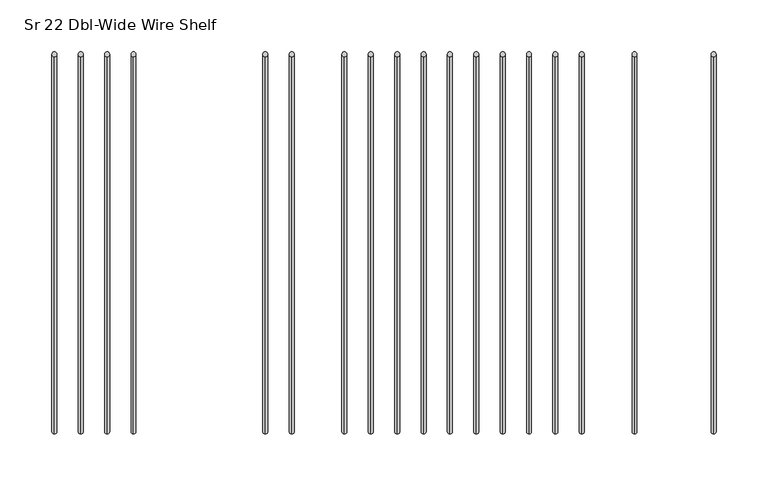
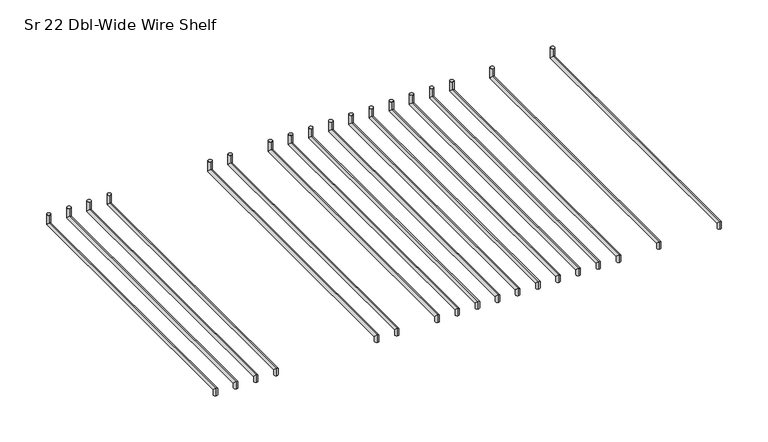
"""IFC4 building model written with IfcOpenShell, lengths in millimetres: furniture geometry, HermanMiller_Carts_CT521_CartShelf : Sr 22 Dbl-Wide Wire Shelf."""

from ifc_helpers import new_model, si_unit, frame, origin, place, context, project, spatial, circle_curve, ellipse_curve, source, transform, mapped, element, save
from ifc_brep_helpers import plane_surface, cylinder_surface, advanced_brep


def sr_22_dbl_wide_wire_shelf_4a8b3b1c(model_context):
    return source(origin(), model_context, "Body", "AdvancedBrep", [
        advanced_brep(
        [(358.5223083, -206.38135, 1538.8971), (358.5223083, -211.14385, 1538.8971), (358.5223083, -206.38135, 1543.6596), (358.5223083, -211.14385, 1548.4221), (358.5223083, 157.2983379, 1543.6596), (358.5223083, 152.5358379, 1548.4221), (358.5223083, 157.2983379, 1558.9377), (358.5223083, 152.5358379, 1558.9377)],
        [
            (0, 1, circle_curve(frame((358.5223083, -208.7626, 1538.8971), z_axis=(0.0, 0.0, -1.0), x_axis=(0.0, -1.0, 0.0)), 2.38125)),
            (1, 0, circle_curve(frame((358.5223083, -208.7626, 1538.8971), z_axis=(0.0, 0.0, -1.0), x_axis=(0.0, -1.0, 0.0)), 2.38125)),
            (0, 2),
            (2, 3, ellipse_curve(frame((358.5223083, -208.7626, 1546.04085), z_axis=(0.0, -0.7071067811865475, -0.7071067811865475), x_axis=(0.0, 0.7071067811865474, -0.7071067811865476)), 3.367596, 2.38125)),
            (3, 1),
            (3, 2, ellipse_curve(frame((358.5223083, -208.7626, 1546.04085), z_axis=(0.0, -0.7071067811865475, -0.7071067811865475), x_axis=(0.0, 0.7071067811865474, -0.7071067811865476)), 3.367596, 2.38125)),
            (2, 4),
            (4, 5, ellipse_curve(frame((358.5223083, 154.9170879, 1546.04085), z_axis=(0.0, -0.7071067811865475, -0.7071067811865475), x_axis=(0.0, -0.7071067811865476, 0.7071067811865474)), 3.367596, 2.38125)),
            (5, 3),
            (5, 4, ellipse_curve(frame((358.5223083, 154.9170879, 1546.04085), z_axis=(0.0, -0.7071067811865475, -0.7071067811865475), x_axis=(0.0, -0.7071067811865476, 0.7071067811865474)), 3.367596, 2.38125)),
            (6, 7, circle_curve(frame((358.5223083, 154.9170879, 1558.9377), z_axis=(0.0, 0.0, 1.0), x_axis=(0.0, -1.0, 0.0)), 2.38125)),
            (7, 6, circle_curve(frame((358.5223083, 154.9170879, 1558.9377), z_axis=(0.0, 0.0, 1.0), x_axis=(0.0, -1.0, 0.0)), 2.38125)),
            (4, 6),
            (7, 5),
        ],
        [
            plane_surface(frame((358.5223083, -208.7626, 1538.8971), z_axis=(0.0, 0.0, -1.0), x_axis=(1.0, 0.0, 0.0))),
            cylinder_surface(frame((358.5223083, -208.7626, 1538.8971), z_axis=(0.0, 0.0, -1.0), x_axis=(0.0, -1.0, 0.0)), 2.38125),
            cylinder_surface(frame((358.5223083, -208.7626, 1546.04085), z_axis=(0.0, -1.0, 0.0), x_axis=(0.0, 0.0, 1.0)), 2.38125),
            plane_surface(frame((358.5223083, 154.9170879, 1558.9377), z_axis=(0.0, 0.0, 1.0), x_axis=(1.0, 0.0, 0.0))),
            cylinder_surface(frame((358.5223083, 154.9170879, 1546.04085), z_axis=(0.0, 0.0, -1.0), x_axis=(0.0, -1.0, 0.0)), 2.38125),
        ],
        [
            (0, [[1, 2]]),
            (1, [[-1, 3, 4, 5]]),
            (1, [[-2, -5, 6, -3]]),
            (2, [[-4, 7, 8, 9]]),
            (2, [[-6, -9, 10, -7]]),
            (3, [[11, 12]]),
            (4, [[-8, 13, -12, 14]]),
            (4, [[-10, -14, -11, -13]]),
        ],
    ),
        advanced_brep(
        [(282.3223083, -206.38135, 1538.8971), (282.3223083, -211.14385, 1538.8971), (282.3223083, -206.38135, 1543.6596), (282.3223083, -211.14385, 1548.4221), (282.3223083, 157.2983379, 1543.6596), (282.3223083, 152.5358379, 1548.4221), (282.3223083, 157.2983379, 1558.9377), (282.3223083, 152.5358379, 1558.9377)],
        [
            (0, 1, circle_curve(frame((282.3223083, -208.7626, 1538.8971), z_axis=(0.0, 0.0, -1.0), x_axis=(0.0, -1.0, 0.0)), 2.38125)),
            (1, 0, circle_curve(frame((282.3223083, -208.7626, 1538.8971), z_axis=(0.0, 0.0, -1.0), x_axis=(0.0, -1.0, 0.0)), 2.38125)),
            (0, 2),
            (2, 3, ellipse_curve(frame((282.3223083, -208.7626, 1546.04085), z_axis=(0.0, -0.7071067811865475, -0.7071067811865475), x_axis=(0.0, 0.7071067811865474, -0.7071067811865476)), 3.367596, 2.38125)),
            (3, 1),
            (3, 2, ellipse_curve(frame((282.3223083, -208.7626, 1546.04085), z_axis=(0.0, -0.7071067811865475, -0.7071067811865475), x_axis=(0.0, 0.7071067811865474, -0.7071067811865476)), 3.367596, 2.38125)),
            (2, 4),
            (4, 5, ellipse_curve(frame((282.3223083, 154.9170879, 1546.04085), z_axis=(0.0, -0.7071067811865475, -0.7071067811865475), x_axis=(0.0, -0.7071067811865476, 0.7071067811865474)), 3.367596, 2.38125)),
            (5, 3),
            (5, 4, ellipse_curve(frame((282.3223083, 154.9170879, 1546.04085), z_axis=(0.0, -0.7071067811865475, -0.7071067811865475), x_axis=(0.0, -0.7071067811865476, 0.7071067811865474)), 3.367596, 2.38125)),
            (6, 7, circle_curve(frame((282.3223083, 154.9170879, 1558.9377), z_axis=(0.0, 0.0, 1.0), x_axis=(0.0, -1.0, 0.0)), 2.38125)),
            (7, 6, circle_curve(frame((282.3223083, 154.9170879, 1558.9377), z_axis=(0.0, 0.0, 1.0), x_axis=(0.0, -1.0, 0.0)), 2.38125)),
            (4, 6),
            (7, 5),
        ],
        [
            plane_surface(frame((282.3223083, -208.7626, 1538.8971), z_axis=(0.0, 0.0, -1.0), x_axis=(1.0, 0.0, 0.0))),
            cylinder_surface(frame((282.3223083, -208.7626, 1538.8971), z_axis=(0.0, 0.0, -1.0), x_axis=(0.0, -1.0, 0.0)), 2.38125),
            cylinder_surface(frame((282.3223083, -208.7626, 1546.04085), z_axis=(0.0, -1.0, 0.0), x_axis=(0.0, 0.0, 1.0)), 2.38125),
            plane_surface(frame((282.3223083, 154.9170879, 1558.9377), z_axis=(0.0, 0.0, 1.0), x_axis=(1.0, 0.0, 0.0))),
            cylinder_surface(frame((282.3223083, 154.9170879, 1546.04085), z_axis=(0.0, 0.0, -1.0), x_axis=(0.0, -1.0, 0.0)), 2.38125),
        ],
        [
            (0, [[1, 2]]),
            (1, [[-1, 3, 4, 5]]),
            (1, [[-2, -5, 6, -3]]),
            (2, [[-4, 7, 8, 9]]),
            (2, [[-6, -9, 10, -7]]),
            (3, [[11, 12]]),
            (4, [[-8, 13, -12, 14]]),
            (4, [[-10, -14, -11, -13]]),
        ],
    ),
        advanced_brep(
        [(28.3223083, -206.38135, 1538.8971), (28.3223083, -211.14385, 1538.8971), (28.3223083, -206.38135, 1543.6596), (28.3223083, -211.14385, 1548.4221), (28.3223083, 157.2983379, 1543.6596), (28.3223083, 152.5358379, 1548.4221), (28.3223083, 157.2983379, 1558.9377), (28.3223083, 152.5358379, 1558.9377)],
        [
            (0, 1, circle_curve(frame((28.3223083, -208.7626, 1538.8971), z_axis=(0.0, 0.0, -1.0), x_axis=(0.0, -1.0, 0.0)), 2.38125)),
            (1, 0, circle_curve(frame((28.3223083, -208.7626, 1538.8971), z_axis=(0.0, 0.0, -1.0), x_axis=(0.0, -1.0, 0.0)), 2.38125)),
            (0, 2),
            (2, 3, ellipse_curve(frame((28.3223083, -208.7626, 1546.04085), z_axis=(0.0, -0.7071067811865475, -0.7071067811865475), x_axis=(0.0, 0.7071067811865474, -0.7071067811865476)), 3.367596, 2.38125)),
            (3, 1),
            (3, 2, ellipse_curve(frame((28.3223083, -208.7626, 1546.04085), z_axis=(0.0, -0.7071067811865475, -0.7071067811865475), x_axis=(0.0, 0.7071067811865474, -0.7071067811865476)), 3.367596, 2.38125)),
            (2, 4),
            (4, 5, ellipse_curve(frame((28.3223083, 154.9170879, 1546.04085), z_axis=(0.0, -0.7071067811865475, -0.7071067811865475), x_axis=(0.0, -0.7071067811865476, 0.7071067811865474)), 3.367596, 2.38125)),
            (5, 3),
            (5, 4, ellipse_curve(frame((28.3223083, 154.9170879, 1546.04085), z_axis=(0.0, -0.7071067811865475, -0.7071067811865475), x_axis=(0.0, -0.7071067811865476, 0.7071067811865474)), 3.367596, 2.38125)),
            (6, 7, circle_curve(frame((28.3223083, 154.9170879, 1558.9377), z_axis=(0.0, 0.0, 1.0), x_axis=(0.0, -1.0, 0.0)), 2.38125)),
            (7, 6, circle_curve(frame((28.3223083, 154.9170879, 1558.9377), z_axis=(0.0, 0.0, 1.0), x_axis=(0.0, -1.0, 0.0)), 2.38125)),
            (4, 6),
            (7, 5),
        ],
        [
            plane_surface(frame((28.3223083, -208.7626, 1538.8971), z_axis=(0.0, 0.0, -1.0), x_axis=(1.0, 0.0, 0.0))),
            cylinder_surface(frame((28.3223083, -208.7626, 1538.8971), z_axis=(0.0, 0.0, -1.0), x_axis=(0.0, -1.0, 0.0)), 2.38125),
            cylinder_surface(frame((28.3223083, -208.7626, 1546.04085), z_axis=(0.0, -1.0, 0.0), x_axis=(0.0, 0.0, 1.0)), 2.38125),
            plane_surface(frame((28.3223083, 154.9170879, 1558.9377), z_axis=(0.0, 0.0, 1.0), x_axis=(1.0, 0.0, 0.0))),
            cylinder_surface(frame((28.3223083, 154.9170879, 1546.04085), z_axis=(0.0, 0.0, -1.0), x_axis=(0.0, -1.0, 0.0)), 2.38125),
        ],
        [
            (0, [[1, 2]]),
            (1, [[-1, 3, 4, 5]]),
            (1, [[-2, -5, 6, -3]]),
            (2, [[-4, 7, 8, 9]]),
            (2, [[-6, -9, 10, -7]]),
            (3, [[11, 12]]),
            (4, [[-8, 13, -12, 14]]),
            (4, [[-10, -14, -11, -13]]),
        ],
    ),
        advanced_brep(
        [(-47.8776917, -206.38135, 1538.8971), (-47.8776917, -211.14385, 1538.8971), (-47.8776917, -206.38135, 1543.6596), (-47.8776917, -211.14385, 1548.4221), (-47.8776917, 157.2983379, 1543.6596), (-47.8776917, 152.5358379, 1548.4221), (-47.8776917, 157.2983379, 1558.9377), (-47.8776917, 152.5358379, 1558.9377)],
        [
            (0, 1, circle_curve(frame((-47.8776917, -208.7626, 1538.8971), z_axis=(0.0, 0.0, -1.0), x_axis=(0.0, -1.0, 0.0)), 2.38125)),
            (1, 0, circle_curve(frame((-47.8776917, -208.7626, 1538.8971), z_axis=(0.0, 0.0, -1.0), x_axis=(0.0, -1.0, 0.0)), 2.38125)),
            (0, 2),
            (2, 3, ellipse_curve(frame((-47.8776917, -208.7626, 1546.04085), z_axis=(0.0, -0.7071067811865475, -0.7071067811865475), x_axis=(0.0, 0.7071067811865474, -0.7071067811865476)), 3.367596, 2.38125)),
            (3, 1),
            (3, 2, ellipse_curve(frame((-47.8776917, -208.7626, 1546.04085), z_axis=(0.0, -0.7071067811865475, -0.7071067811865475), x_axis=(0.0, 0.7071067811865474, -0.7071067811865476)), 3.367596, 2.38125)),
            (2, 4),
            (4, 5, ellipse_curve(frame((-47.8776917, 154.9170879, 1546.04085), z_axis=(0.0, -0.7071067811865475, -0.7071067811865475), x_axis=(0.0, -0.7071067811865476, 0.7071067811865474)), 3.367596, 2.38125)),
            (5, 3),
            (5, 4, ellipse_curve(frame((-47.8776917, 154.9170879, 1546.04085), z_axis=(0.0, -0.7071067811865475, -0.7071067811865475), x_axis=(0.0, -0.7071067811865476, 0.7071067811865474)), 3.367596, 2.38125)),
            (6, 7, circle_curve(frame((-47.8776917, 154.9170879, 1558.9377), z_axis=(0.0, 0.0, 1.0), x_axis=(0.0, -1.0, 0.0)), 2.38125)),
            (7, 6, circle_curve(frame((-47.8776917, 154.9170879, 1558.9377), z_axis=(0.0, 0.0, 1.0), x_axis=(0.0, -1.0, 0.0)), 2.38125)),
            (4, 6),
            (7, 5),
        ],
        [
            plane_surface(frame((-47.8776917, -208.7626, 1538.8971), z_axis=(0.0, 0.0, -1.0), x_axis=(1.0, 0.0, 0.0))),
            cylinder_surface(frame((-47.8776917, -208.7626, 1538.8971), z_axis=(0.0, 0.0, -1.0), x_axis=(0.0, -1.0, 0.0)), 2.38125),
            cylinder_surface(frame((-47.8776917, -208.7626, 1546.04085), z_axis=(0.0, -1.0, 0.0), x_axis=(0.0, 0.0, 1.0)), 2.38125),
            plane_surface(frame((-47.8776917, 154.9170879, 1558.9377), z_axis=(0.0, 0.0, 1.0), x_axis=(1.0, 0.0, 0.0))),
            cylinder_surface(frame((-47.8776917, 154.9170879, 1546.04085), z_axis=(0.0, 0.0, -1.0), x_axis=(0.0, -1.0, 0.0)), 2.38125),
        ],
        [
            (0, [[1, 2]]),
            (1, [[-1, 3, 4, 5]]),
            (1, [[-2, -5, 6, -3]]),
            (2, [[-4, 7, 8, 9]]),
            (2, [[-6, -9, 10, -7]]),
            (3, [[11, 12]]),
            (4, [[-8, 13, -12, 14]]),
            (4, [[-10, -14, -11, -13]]),
        ],
    ),
        advanced_brep(
        [(-73.2776917, -206.38135, 1538.8971), (-73.2776917, -211.14385, 1538.8971), (-73.2776917, -206.38135, 1543.6596), (-73.2776917, -211.14385, 1548.4221), (-73.2776917, 157.2983379, 1543.6596), (-73.2776917, 152.5358379, 1548.4221), (-73.2776917, 157.2983379, 1558.9377), (-73.2776917, 152.5358379, 1558.9377)],
        [
            (0, 1, circle_curve(frame((-73.2776917, -208.7626, 1538.8971), z_axis=(0.0, 0.0, -1.0), x_axis=(0.0, -1.0, 0.0)), 2.38125)),
            (1, 0, circle_curve(frame((-73.2776917, -208.7626, 1538.8971), z_axis=(0.0, 0.0, -1.0), x_axis=(0.0, -1.0, 0.0)), 2.38125)),
            (0, 2),
            (2, 3, ellipse_curve(frame((-73.2776917, -208.7626, 1546.04085), z_axis=(0.0, -0.7071067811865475, -0.7071067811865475), x_axis=(0.0, 0.7071067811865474, -0.7071067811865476)), 3.367596, 2.38125)),
            (3, 1),
            (3, 2, ellipse_curve(frame((-73.2776917, -208.7626, 1546.04085), z_axis=(0.0, -0.7071067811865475, -0.7071067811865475), x_axis=(0.0, 0.7071067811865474, -0.7071067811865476)), 3.367596, 2.38125)),
            (2, 4),
            (4, 5, ellipse_curve(frame((-73.2776917, 154.9170879, 1546.04085), z_axis=(0.0, -0.7071067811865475, -0.7071067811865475), x_axis=(0.0, -0.7071067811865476, 0.7071067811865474)), 3.367596, 2.38125)),
            (5, 3),
            (5, 4, ellipse_curve(frame((-73.2776917, 154.9170879, 1546.04085), z_axis=(0.0, -0.7071067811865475, -0.7071067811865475), x_axis=(0.0, -0.7071067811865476, 0.7071067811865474)), 3.367596, 2.38125)),
            (6, 7, circle_curve(frame((-73.2776917, 154.9170879, 1558.9377), z_axis=(0.0, 0.0, 1.0), x_axis=(0.0, -1.0, 0.0)), 2.38125)),
            (7, 6, circle_curve(frame((-73.2776917, 154.9170879, 1558.9377), z_axis=(0.0, 0.0, 1.0), x_axis=(0.0, -1.0, 0.0)), 2.38125)),
            (4, 6),
            (7, 5),
        ],
        [
            plane_surface(frame((-73.2776917, -208.7626, 1538.8971), z_axis=(0.0, 0.0, -1.0), x_axis=(1.0, 0.0, 0.0))),
            cylinder_surface(frame((-73.2776917, -208.7626, 1538.8971), z_axis=(0.0, 0.0, -1.0), x_axis=(0.0, -1.0, 0.0)), 2.38125),
            cylinder_surface(frame((-73.2776917, -208.7626, 1546.04085), z_axis=(0.0, -1.0, 0.0), x_axis=(0.0, 0.0, 1.0)), 2.38125),
            plane_surface(frame((-73.2776917, 154.9170879, 1558.9377), z_axis=(0.0, 0.0, 1.0), x_axis=(1.0, 0.0, 0.0))),
            cylinder_surface(frame((-73.2776917, 154.9170879, 1546.04085), z_axis=(0.0, 0.0, -1.0), x_axis=(0.0, -1.0, 0.0)), 2.38125),
        ],
        [
            (0, [[1, 2]]),
            (1, [[-1, 3, 4, 5]]),
            (1, [[-2, -5, 6, -3]]),
            (2, [[-4, 7, 8, 9]]),
            (2, [[-6, -9, 10, -7]]),
            (3, [[11, 12]]),
            (4, [[-8, 13, -12, 14]]),
            (4, [[-10, -14, -11, -13]]),
        ],
    ),
        advanced_brep(
        [(2.9223083, -206.38135, 1538.8971), (2.9223083, -211.14385, 1538.8971), (2.9223083, -206.38135, 1543.6596), (2.9223083, -211.14385, 1548.4221), (2.9223083, 157.2983379, 1543.6596), (2.9223083, 152.5358379, 1548.4221), (2.9223083, 157.2983379, 1558.9377), (2.9223083, 152.5358379, 1558.9377)],
        [
            (0, 1, circle_curve(frame((2.9223083, -208.7626, 1538.8971), z_axis=(0.0, 0.0, -1.0), x_axis=(0.0, -1.0, 0.0)), 2.38125)),
            (1, 0, circle_curve(frame((2.9223083, -208.7626, 1538.8971), z_axis=(0.0, 0.0, -1.0), x_axis=(0.0, -1.0, 0.0)), 2.38125)),
            (0, 2),
            (2, 3, ellipse_curve(frame((2.9223083, -208.7626, 1546.04085), z_axis=(0.0, -0.7071067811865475, -0.7071067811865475), x_axis=(0.0, 0.7071067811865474, -0.7071067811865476)), 3.367596, 2.38125)),
            (3, 1),
            (3, 2, ellipse_curve(frame((2.9223083, -208.7626, 1546.04085), z_axis=(0.0, -0.7071067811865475, -0.7071067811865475), x_axis=(0.0, 0.7071067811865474, -0.7071067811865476)), 3.367596, 2.38125)),
            (2, 4),
            (4, 5, ellipse_curve(frame((2.9223083, 154.9170879, 1546.04085), z_axis=(0.0, -0.7071067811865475, -0.7071067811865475), x_axis=(0.0, -0.7071067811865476, 0.7071067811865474)), 3.367596, 2.38125)),
            (5, 3),
            (5, 4, ellipse_curve(frame((2.9223083, 154.9170879, 1546.04085), z_axis=(0.0, -0.7071067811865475, -0.7071067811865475), x_axis=(0.0, -0.7071067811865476, 0.7071067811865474)), 3.367596, 2.38125)),
            (6, 7, circle_curve(frame((2.9223083, 154.9170879, 1558.9377), z_axis=(0.0, 0.0, 1.0), x_axis=(0.0, -1.0, 0.0)), 2.38125)),
            (7, 6, circle_curve(frame((2.9223083, 154.9170879, 1558.9377), z_axis=(0.0, 0.0, 1.0), x_axis=(0.0, -1.0, 0.0)), 2.38125)),
            (4, 6),
            (7, 5),
        ],
        [
            plane_surface(frame((2.9223083, -208.7626, 1538.8971), z_axis=(0.0, 0.0, -1.0), x_axis=(1.0, 0.0, 0.0))),
            cylinder_surface(frame((2.9223083, -208.7626, 1538.8971), z_axis=(0.0, 0.0, -1.0), x_axis=(0.0, -1.0, 0.0)), 2.38125),
            cylinder_surface(frame((2.9223083, -208.7626, 1546.04085), z_axis=(0.0, -1.0, 0.0), x_axis=(0.0, 0.0, 1.0)), 2.38125),
            plane_surface(frame((2.9223083, 154.9170879, 1558.9377), z_axis=(0.0, 0.0, 1.0), x_axis=(1.0, 0.0, 0.0))),
            cylinder_surface(frame((2.9223083, 154.9170879, 1546.04085), z_axis=(0.0, 0.0, -1.0), x_axis=(0.0, -1.0, 0.0)), 2.38125),
        ],
        [
            (0, [[1, 2]]),
            (1, [[-1, 3, 4, 5]]),
            (1, [[-2, -5, 6, -3]]),
            (2, [[-4, 7, 8, 9]]),
            (2, [[-6, -9, 10, -7]]),
            (3, [[11, 12]]),
            (4, [[-8, 13, -12, 14]]),
            (4, [[-10, -14, -11, -13]]),
        ],
    ),
        advanced_brep(
        [(53.7223083, -206.38135, 1538.8971), (53.7223083, -211.14385, 1538.8971), (53.7223083, -206.38135, 1543.6596), (53.7223083, -211.14385, 1548.4221), (53.7223083, 157.2983379, 1543.6596), (53.7223083, 152.5358379, 1548.4221), (53.7223083, 157.2983379, 1558.9377), (53.7223083, 152.5358379, 1558.9377)],
        [
            (0, 1, circle_curve(frame((53.7223083, -208.7626, 1538.8971), z_axis=(0.0, 0.0, -1.0), x_axis=(0.0, -1.0, 0.0)), 2.38125)),
            (1, 0, circle_curve(frame((53.7223083, -208.7626, 1538.8971), z_axis=(0.0, 0.0, -1.0), x_axis=(0.0, -1.0, 0.0)), 2.38125)),
            (0, 2),
            (2, 3, ellipse_curve(frame((53.7223083, -208.7626, 1546.04085), z_axis=(0.0, -0.7071067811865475, -0.7071067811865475), x_axis=(0.0, 0.7071067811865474, -0.7071067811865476)), 3.367596, 2.38125)),
            (3, 1),
            (3, 2, ellipse_curve(frame((53.7223083, -208.7626, 1546.04085), z_axis=(0.0, -0.7071067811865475, -0.7071067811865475), x_axis=(0.0, 0.7071067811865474, -0.7071067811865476)), 3.367596, 2.38125)),
            (2, 4),
            (4, 5, ellipse_curve(frame((53.7223083, 154.9170879, 1546.04085), z_axis=(0.0, -0.7071067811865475, -0.7071067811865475), x_axis=(0.0, -0.7071067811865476, 0.7071067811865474)), 3.367596, 2.38125)),
            (5, 3),
            (5, 4, ellipse_curve(frame((53.7223083, 154.9170879, 1546.04085), z_axis=(0.0, -0.7071067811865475, -0.7071067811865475), x_axis=(0.0, -0.7071067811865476, 0.7071067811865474)), 3.367596, 2.38125)),
            (6, 7, circle_curve(frame((53.7223083, 154.9170879, 1558.9377), z_axis=(0.0, 0.0, 1.0), x_axis=(0.0, -1.0, 0.0)), 2.38125)),
            (7, 6, circle_curve(frame((53.7223083, 154.9170879, 1558.9377), z_axis=(0.0, 0.0, 1.0), x_axis=(0.0, -1.0, 0.0)), 2.38125)),
            (4, 6),
            (7, 5),
        ],
        [
            plane_surface(frame((53.7223083, -208.7626, 1538.8971), z_axis=(0.0, 0.0, -1.0), x_axis=(1.0, 0.0, 0.0))),
            cylinder_surface(frame((53.7223083, -208.7626, 1538.8971), z_axis=(0.0, 0.0, -1.0), x_axis=(0.0, -1.0, 0.0)), 2.38125),
            cylinder_surface(frame((53.7223083, -208.7626, 1546.04085), z_axis=(0.0, -1.0, 0.0), x_axis=(0.0, 0.0, 1.0)), 2.38125),
            plane_surface(frame((53.7223083, 154.9170879, 1558.9377), z_axis=(0.0, 0.0, 1.0), x_axis=(1.0, 0.0, 0.0))),
            cylinder_surface(frame((53.7223083, 154.9170879, 1546.04085), z_axis=(0.0, 0.0, -1.0), x_axis=(0.0, -1.0, 0.0)), 2.38125),
        ],
        [
            (0, [[1, 2]]),
            (1, [[-1, 3, 4, 5]]),
            (1, [[-2, -5, 6, -3]]),
            (2, [[-4, 7, 8, 9]]),
            (2, [[-6, -9, 10, -7]]),
            (3, [[11, 12]]),
            (4, [[-8, 13, -12, 14]]),
            (4, [[-10, -14, -11, -13]]),
        ],
    ),
        advanced_brep(
        [(79.1223083, -206.38135, 1538.8971), (79.1223083, -211.14385, 1538.8971), (79.1223083, -206.38135, 1543.6596), (79.1223083, -211.14385, 1548.4221), (79.1223083, 157.2983379, 1543.6596), (79.1223083, 152.5358379, 1548.4221), (79.1223083, 157.2983379, 1558.9377), (79.1223083, 152.5358379, 1558.9377)],
        [
            (0, 1, circle_curve(frame((79.1223083, -208.7626, 1538.8971), z_axis=(0.0, 0.0, -1.0), x_axis=(0.0, -1.0, 0.0)), 2.38125)),
            (1, 0, circle_curve(frame((79.1223083, -208.7626, 1538.8971), z_axis=(0.0, 0.0, -1.0), x_axis=(0.0, -1.0, 0.0)), 2.38125)),
            (0, 2),
            (2, 3, ellipse_curve(frame((79.1223083, -208.7626, 1546.04085), z_axis=(0.0, -0.7071067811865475, -0.7071067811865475), x_axis=(0.0, 0.7071067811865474, -0.7071067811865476)), 3.367596, 2.38125)),
            (3, 1),
            (3, 2, ellipse_curve(frame((79.1223083, -208.7626, 1546.04085), z_axis=(0.0, -0.7071067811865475, -0.7071067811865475), x_axis=(0.0, 0.7071067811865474, -0.7071067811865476)), 3.367596, 2.38125)),
            (2, 4),
            (4, 5, ellipse_curve(frame((79.1223083, 154.9170879, 1546.04085), z_axis=(0.0, -0.7071067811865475, -0.7071067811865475), x_axis=(0.0, -0.7071067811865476, 0.7071067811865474)), 3.367596, 2.38125)),
            (5, 3),
            (5, 4, ellipse_curve(frame((79.1223083, 154.9170879, 1546.04085), z_axis=(0.0, -0.7071067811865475, -0.7071067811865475), x_axis=(0.0, -0.7071067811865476, 0.7071067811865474)), 3.367596, 2.38125)),
            (6, 7, circle_curve(frame((79.1223083, 154.9170879, 1558.9377), z_axis=(0.0, 0.0, 1.0), x_axis=(0.0, -1.0, 0.0)), 2.38125)),
            (7, 6, circle_curve(frame((79.1223083, 154.9170879, 1558.9377), z_axis=(0.0, 0.0, 1.0), x_axis=(0.0, -1.0, 0.0)), 2.38125)),
            (4, 6),
            (7, 5),
        ],
        [
            plane_surface(frame((79.1223083, -208.7626, 1538.8971), z_axis=(0.0, 0.0, -1.0), x_axis=(1.0, 0.0, 0.0))),
            cylinder_surface(frame((79.1223083, -208.7626, 1538.8971), z_axis=(0.0, 0.0, -1.0), x_axis=(0.0, -1.0, 0.0)), 2.38125),
            cylinder_surface(frame((79.1223083, -208.7626, 1546.04085), z_axis=(0.0, -1.0, 0.0), x_axis=(0.0, 0.0, 1.0)), 2.38125),
            plane_surface(frame((79.1223083, 154.9170879, 1558.9377), z_axis=(0.0, 0.0, 1.0), x_axis=(1.0, 0.0, 0.0))),
            cylinder_surface(frame((79.1223083, 154.9170879, 1546.04085), z_axis=(0.0, 0.0, -1.0), x_axis=(0.0, -1.0, 0.0)), 2.38125),
        ],
        [
            (0, [[1, 2]]),
            (1, [[-1, 3, 4, 5]]),
            (1, [[-2, -5, 6, -3]]),
            (2, [[-4, 7, 8, 9]]),
            (2, [[-6, -9, 10, -7]]),
            (3, [[11, 12]]),
            (4, [[-8, 13, -12, 14]]),
            (4, [[-10, -14, -11, -13]]),
        ],
    ),
        advanced_brep(
        [(104.5223083, -206.38135, 1538.8971), (104.5223083, -211.14385, 1538.8971), (104.5223083, -206.38135, 1543.6596), (104.5223083, -211.14385, 1548.4221), (104.5223083, 157.2983379, 1543.6596), (104.5223083, 152.5358379, 1548.4221), (104.5223083, 157.2983379, 1558.9377), (104.5223083, 152.5358379, 1558.9377)],
        [
            (0, 1, circle_curve(frame((104.5223083, -208.7626, 1538.8971), z_axis=(0.0, 0.0, -1.0), x_axis=(0.0, -1.0, 0.0)), 2.38125)),
            (1, 0, circle_curve(frame((104.5223083, -208.7626, 1538.8971), z_axis=(0.0, 0.0, -1.0), x_axis=(0.0, -1.0, 0.0)), 2.38125)),
            (0, 2),
            (2, 3, ellipse_curve(frame((104.5223083, -208.7626, 1546.04085), z_axis=(0.0, -0.7071067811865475, -0.7071067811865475), x_axis=(0.0, 0.7071067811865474, -0.7071067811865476)), 3.367596, 2.38125)),
            (3, 1),
            (3, 2, ellipse_curve(frame((104.5223083, -208.7626, 1546.04085), z_axis=(0.0, -0.7071067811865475, -0.7071067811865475), x_axis=(0.0, 0.7071067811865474, -0.7071067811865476)), 3.367596, 2.38125)),
            (2, 4),
            (4, 5, ellipse_curve(frame((104.5223083, 154.9170879, 1546.04085), z_axis=(0.0, -0.7071067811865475, -0.7071067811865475), x_axis=(0.0, -0.7071067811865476, 0.7071067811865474)), 3.367596, 2.38125)),
            (5, 3),
            (5, 4, ellipse_curve(frame((104.5223083, 154.9170879, 1546.04085), z_axis=(0.0, -0.7071067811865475, -0.7071067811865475), x_axis=(0.0, -0.7071067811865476, 0.7071067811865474)), 3.367596, 2.38125)),
            (6, 7, circle_curve(frame((104.5223083, 154.9170879, 1558.9377), z_axis=(0.0, 0.0, 1.0), x_axis=(0.0, -1.0, 0.0)), 2.38125)),
            (7, 6, circle_curve(frame((104.5223083, 154.9170879, 1558.9377), z_axis=(0.0, 0.0, 1.0), x_axis=(0.0, -1.0, 0.0)), 2.38125)),
            (4, 6),
            (7, 5),
        ],
        [
            plane_surface(frame((104.5223083, -208.7626, 1538.8971), z_axis=(0.0, 0.0, -1.0), x_axis=(1.0, 0.0, 0.0))),
            cylinder_surface(frame((104.5223083, -208.7626, 1538.8971), z_axis=(0.0, 0.0, -1.0), x_axis=(0.0, -1.0, 0.0)), 2.38125),
            cylinder_surface(frame((104.5223083, -208.7626, 1546.04085), z_axis=(0.0, -1.0, 0.0), x_axis=(0.0, 0.0, 1.0)), 2.38125),
            plane_surface(frame((104.5223083, 154.9170879, 1558.9377), z_axis=(0.0, 0.0, 1.0), x_axis=(1.0, 0.0, 0.0))),
            cylinder_surface(frame((104.5223083, 154.9170879, 1546.04085), z_axis=(0.0, 0.0, -1.0), x_axis=(0.0, -1.0, 0.0)), 2.38125),
        ],
        [
            (0, [[1, 2]]),
            (1, [[-1, 3, 4, 5]]),
            (1, [[-2, -5, 6, -3]]),
            (2, [[-4, 7, 8, 9]]),
            (2, [[-6, -9, 10, -7]]),
            (3, [[11, 12]]),
            (4, [[-8, 13, -12, 14]]),
            (4, [[-10, -14, -11, -13]]),
        ],
    ),
        advanced_brep(
        [(129.9223083, -206.38135, 1538.8971), (129.9223083, -211.14385, 1538.8971), (129.9223083, -206.38135, 1543.6596), (129.9223083, -211.14385, 1548.4221), (129.9223083, 157.2983379, 1543.6596), (129.9223083, 152.5358379, 1548.4221), (129.9223083, 157.2983379, 1558.9377), (129.9223083, 152.5358379, 1558.9377)],
        [
            (0, 1, circle_curve(frame((129.9223083, -208.7626, 1538.8971), z_axis=(0.0, 0.0, -1.0), x_axis=(0.0, -1.0, 0.0)), 2.38125)),
            (1, 0, circle_curve(frame((129.9223083, -208.7626, 1538.8971), z_axis=(0.0, 0.0, -1.0), x_axis=(0.0, -1.0, 0.0)), 2.38125)),
            (0, 2),
            (2, 3, ellipse_curve(frame((129.9223083, -208.7626, 1546.04085), z_axis=(0.0, -0.7071067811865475, -0.7071067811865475), x_axis=(0.0, 0.7071067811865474, -0.7071067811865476)), 3.367596, 2.38125)),
            (3, 1),
            (3, 2, ellipse_curve(frame((129.9223083, -208.7626, 1546.04085), z_axis=(0.0, -0.7071067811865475, -0.7071067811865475), x_axis=(0.0, 0.7071067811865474, -0.7071067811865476)), 3.367596, 2.38125)),
            (2, 4),
            (4, 5, ellipse_curve(frame((129.9223083, 154.9170879, 1546.04085), z_axis=(0.0, -0.7071067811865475, -0.7071067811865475), x_axis=(0.0, -0.7071067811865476, 0.7071067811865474)), 3.367596, 2.38125)),
            (5, 3),
            (5, 4, ellipse_curve(frame((129.9223083, 154.9170879, 1546.04085), z_axis=(0.0, -0.7071067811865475, -0.7071067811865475), x_axis=(0.0, -0.7071067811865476, 0.7071067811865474)), 3.367596, 2.38125)),
            (6, 7, circle_curve(frame((129.9223083, 154.9170879, 1558.9377), z_axis=(0.0, 0.0, 1.0), x_axis=(0.0, -1.0, 0.0)), 2.38125)),
            (7, 6, circle_curve(frame((129.9223083, 154.9170879, 1558.9377), z_axis=(0.0, 0.0, 1.0), x_axis=(0.0, -1.0, 0.0)), 2.38125)),
            (4, 6),
            (7, 5),
        ],
        [
            plane_surface(frame((129.9223083, -208.7626, 1538.8971), z_axis=(0.0, 0.0, -1.0), x_axis=(1.0, 0.0, 0.0))),
            cylinder_surface(frame((129.9223083, -208.7626, 1538.8971), z_axis=(0.0, 0.0, -1.0), x_axis=(0.0, -1.0, 0.0)), 2.38125),
            cylinder_surface(frame((129.9223083, -208.7626, 1546.04085), z_axis=(0.0, -1.0, 0.0), x_axis=(0.0, 0.0, 1.0)), 2.38125),
            plane_surface(frame((129.9223083, 154.9170879, 1558.9377), z_axis=(0.0, 0.0, 1.0), x_axis=(1.0, 0.0, 0.0))),
            cylinder_surface(frame((129.9223083, 154.9170879, 1546.04085), z_axis=(0.0, 0.0, -1.0), x_axis=(0.0, -1.0, 0.0)), 2.38125),
        ],
        [
            (0, [[1, 2]]),
            (1, [[-1, 3, 4, 5]]),
            (1, [[-2, -5, 6, -3]]),
            (2, [[-4, 7, 8, 9]]),
            (2, [[-6, -9, 10, -7]]),
            (3, [[11, 12]]),
            (4, [[-8, 13, -12, 14]]),
            (4, [[-10, -14, -11, -13]]),
        ],
    ),
        advanced_brep(
        [(155.3223083, -206.38135, 1538.8971), (155.3223083, -211.14385, 1538.8971), (155.3223083, -206.38135, 1543.6596), (155.3223083, -211.14385, 1548.4221), (155.3223083, 157.2983379, 1543.6596), (155.3223083, 152.5358379, 1548.4221), (155.3223083, 157.2983379, 1558.9377), (155.3223083, 152.5358379, 1558.9377)],
        [
            (0, 1, circle_curve(frame((155.3223083, -208.7626, 1538.8971), z_axis=(0.0, 0.0, -1.0), x_axis=(0.0, -1.0, 0.0)), 2.38125)),
            (1, 0, circle_curve(frame((155.3223083, -208.7626, 1538.8971), z_axis=(0.0, 0.0, -1.0), x_axis=(0.0, -1.0, 0.0)), 2.38125)),
            (0, 2),
            (2, 3, ellipse_curve(frame((155.3223083, -208.7626, 1546.04085), z_axis=(0.0, -0.7071067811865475, -0.7071067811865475), x_axis=(0.0, 0.7071067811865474, -0.7071067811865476)), 3.367596, 2.38125)),
            (3, 1),
            (3, 2, ellipse_curve(frame((155.3223083, -208.7626, 1546.04085), z_axis=(0.0, -0.7071067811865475, -0.7071067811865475), x_axis=(0.0, 0.7071067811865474, -0.7071067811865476)), 3.367596, 2.38125)),
            (2, 4),
            (4, 5, ellipse_curve(frame((155.3223083, 154.9170879, 1546.04085), z_axis=(0.0, -0.7071067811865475, -0.7071067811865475), x_axis=(0.0, -0.7071067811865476, 0.7071067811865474)), 3.367596, 2.38125)),
            (5, 3),
            (5, 4, ellipse_curve(frame((155.3223083, 154.9170879, 1546.04085), z_axis=(0.0, -0.7071067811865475, -0.7071067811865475), x_axis=(0.0, -0.7071067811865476, 0.7071067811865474)), 3.367596, 2.38125)),
            (6, 7, circle_curve(frame((155.3223083, 154.9170879, 1558.9377), z_axis=(0.0, 0.0, 1.0), x_axis=(0.0, -1.0, 0.0)), 2.38125)),
            (7, 6, circle_curve(frame((155.3223083, 154.9170879, 1558.9377), z_axis=(0.0, 0.0, 1.0), x_axis=(0.0, -1.0, 0.0)), 2.38125)),
            (4, 6),
            (7, 5),
        ],
        [
            plane_surface(frame((155.3223083, -208.7626, 1538.8971), z_axis=(0.0, 0.0, -1.0), x_axis=(1.0, 0.0, 0.0))),
            cylinder_surface(frame((155.3223083, -208.7626, 1538.8971), z_axis=(0.0, 0.0, -1.0), x_axis=(0.0, -1.0, 0.0)), 2.38125),
            cylinder_surface(frame((155.3223083, -208.7626, 1546.04085), z_axis=(0.0, -1.0, 0.0), x_axis=(0.0, 0.0, 1.0)), 2.38125),
            plane_surface(frame((155.3223083, 154.9170879, 1558.9377), z_axis=(0.0, 0.0, 1.0), x_axis=(1.0, 0.0, 0.0))),
            cylinder_surface(frame((155.3223083, 154.9170879, 1546.04085), z_axis=(0.0, 0.0, -1.0), x_axis=(0.0, -1.0, 0.0)), 2.38125),
        ],
        [
            (0, [[1, 2]]),
            (1, [[-1, 3, 4, 5]]),
            (1, [[-2, -5, 6, -3]]),
            (2, [[-4, 7, 8, 9]]),
            (2, [[-6, -9, 10, -7]]),
            (3, [[11, 12]]),
            (4, [[-8, 13, -12, 14]]),
            (4, [[-10, -14, -11, -13]]),
        ],
    ),
        advanced_brep(
        [(180.7223083, -206.38135, 1538.8971), (180.7223083, -211.14385, 1538.8971), (180.7223083, -206.38135, 1543.6596), (180.7223083, -211.14385, 1548.4221), (180.7223083, 157.2983379, 1543.6596), (180.7223083, 152.5358379, 1548.4221), (180.7223083, 157.2983379, 1558.9377), (180.7223083, 152.5358379, 1558.9377)],
        [
            (0, 1, circle_curve(frame((180.7223083, -208.7626, 1538.8971), z_axis=(0.0, 0.0, -1.0), x_axis=(0.0, -1.0, 0.0)), 2.38125)),
            (1, 0, circle_curve(frame((180.7223083, -208.7626, 1538.8971), z_axis=(0.0, 0.0, -1.0), x_axis=(0.0, -1.0, 0.0)), 2.38125)),
            (0, 2),
            (2, 3, ellipse_curve(frame((180.7223083, -208.7626, 1546.04085), z_axis=(0.0, -0.7071067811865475, -0.7071067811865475), x_axis=(0.0, 0.7071067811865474, -0.7071067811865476)), 3.367596, 2.38125)),
            (3, 1),
            (3, 2, ellipse_curve(frame((180.7223083, -208.7626, 1546.04085), z_axis=(0.0, -0.7071067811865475, -0.7071067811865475), x_axis=(0.0, 0.7071067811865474, -0.7071067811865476)), 3.367596, 2.38125)),
            (2, 4),
            (4, 5, ellipse_curve(frame((180.7223083, 154.9170879, 1546.04085), z_axis=(0.0, -0.7071067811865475, -0.7071067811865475), x_axis=(0.0, -0.7071067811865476, 0.7071067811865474)), 3.367596, 2.38125)),
            (5, 3),
            (5, 4, ellipse_curve(frame((180.7223083, 154.9170879, 1546.04085), z_axis=(0.0, -0.7071067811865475, -0.7071067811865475), x_axis=(0.0, -0.7071067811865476, 0.7071067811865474)), 3.367596, 2.38125)),
            (6, 7, circle_curve(frame((180.7223083, 154.9170879, 1558.9377), z_axis=(0.0, 0.0, 1.0), x_axis=(0.0, -1.0, 0.0)), 2.38125)),
            (7, 6, circle_curve(frame((180.7223083, 154.9170879, 1558.9377), z_axis=(0.0, 0.0, 1.0), x_axis=(0.0, -1.0, 0.0)), 2.38125)),
            (4, 6),
            (7, 5),
        ],
        [
            plane_surface(frame((180.7223083, -208.7626, 1538.8971), z_axis=(0.0, 0.0, -1.0), x_axis=(1.0, 0.0, 0.0))),
            cylinder_surface(frame((180.7223083, -208.7626, 1538.8971), z_axis=(0.0, 0.0, -1.0), x_axis=(0.0, -1.0, 0.0)), 2.38125),
            cylinder_surface(frame((180.7223083, -208.7626, 1546.04085), z_axis=(0.0, -1.0, 0.0), x_axis=(0.0, 0.0, 1.0)), 2.38125),
            plane_surface(frame((180.7223083, 154.9170879, 1558.9377), z_axis=(0.0, 0.0, 1.0), x_axis=(1.0, 0.0, 0.0))),
            cylinder_surface(frame((180.7223083, 154.9170879, 1546.04085), z_axis=(0.0, 0.0, -1.0), x_axis=(0.0, -1.0, 0.0)), 2.38125),
        ],
        [
            (0, [[1, 2]]),
            (1, [[-1, 3, 4, 5]]),
            (1, [[-2, -5, 6, -3]]),
            (2, [[-4, 7, 8, 9]]),
            (2, [[-6, -9, 10, -7]]),
            (3, [[11, 12]]),
            (4, [[-8, 13, -12, 14]]),
            (4, [[-10, -14, -11, -13]]),
        ],
    ),
        advanced_brep(
        [(206.1223083, -206.38135, 1538.8971), (206.1223083, -211.14385, 1538.8971), (206.1223083, -206.38135, 1543.6596), (206.1223083, -211.14385, 1548.4221), (206.1223083, 157.2983379, 1543.6596), (206.1223083, 152.5358379, 1548.4221), (206.1223083, 157.2983379, 1558.9377), (206.1223083, 152.5358379, 1558.9377)],
        [
            (0, 1, circle_curve(frame((206.1223083, -208.7626, 1538.8971), z_axis=(0.0, 0.0, -1.0), x_axis=(0.0, -1.0, 0.0)), 2.38125)),
            (1, 0, circle_curve(frame((206.1223083, -208.7626, 1538.8971), z_axis=(0.0, 0.0, -1.0), x_axis=(0.0, -1.0, 0.0)), 2.38125)),
            (0, 2),
            (2, 3, ellipse_curve(frame((206.1223083, -208.7626, 1546.04085), z_axis=(0.0, -0.7071067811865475, -0.7071067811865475), x_axis=(0.0, 0.7071067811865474, -0.7071067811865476)), 3.367596, 2.38125)),
            (3, 1),
            (3, 2, ellipse_curve(frame((206.1223083, -208.7626, 1546.04085), z_axis=(0.0, -0.7071067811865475, -0.7071067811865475), x_axis=(0.0, 0.7071067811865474, -0.7071067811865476)), 3.367596, 2.38125)),
            (2, 4),
            (4, 5, ellipse_curve(frame((206.1223083, 154.9170879, 1546.04085), z_axis=(0.0, -0.7071067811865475, -0.7071067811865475), x_axis=(0.0, -0.7071067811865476, 0.7071067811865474)), 3.367596, 2.38125)),
            (5, 3),
            (5, 4, ellipse_curve(frame((206.1223083, 154.9170879, 1546.04085), z_axis=(0.0, -0.7071067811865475, -0.7071067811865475), x_axis=(0.0, -0.7071067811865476, 0.7071067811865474)), 3.367596, 2.38125)),
            (6, 7, circle_curve(frame((206.1223083, 154.9170879, 1558.9377), z_axis=(0.0, 0.0, 1.0), x_axis=(0.0, -1.0, 0.0)), 2.38125)),
            (7, 6, circle_curve(frame((206.1223083, 154.9170879, 1558.9377), z_axis=(0.0, 0.0, 1.0), x_axis=(0.0, -1.0, 0.0)), 2.38125)),
            (4, 6),
            (7, 5),
        ],
        [
            plane_surface(frame((206.1223083, -208.7626, 1538.8971), z_axis=(0.0, 0.0, -1.0), x_axis=(1.0, 0.0, 0.0))),
            cylinder_surface(frame((206.1223083, -208.7626, 1538.8971), z_axis=(0.0, 0.0, -1.0), x_axis=(0.0, -1.0, 0.0)), 2.38125),
            cylinder_surface(frame((206.1223083, -208.7626, 1546.04085), z_axis=(0.0, -1.0, 0.0), x_axis=(0.0, 0.0, 1.0)), 2.38125),
            plane_surface(frame((206.1223083, 154.9170879, 1558.9377), z_axis=(0.0, 0.0, 1.0), x_axis=(1.0, 0.0, 0.0))),
            cylinder_surface(frame((206.1223083, 154.9170879, 1546.04085), z_axis=(0.0, 0.0, -1.0), x_axis=(0.0, -1.0, 0.0)), 2.38125),
        ],
        [
            (0, [[1, 2]]),
            (1, [[-1, 3, 4, 5]]),
            (1, [[-2, -5, 6, -3]]),
            (2, [[-4, 7, 8, 9]]),
            (2, [[-6, -9, 10, -7]]),
            (3, [[11, 12]]),
            (4, [[-8, 13, -12, 14]]),
            (4, [[-10, -14, -11, -13]]),
        ],
    ),
        advanced_brep(
        [(231.5223083, -206.38135, 1538.8971), (231.5223083, -211.14385, 1538.8971), (231.5223083, -206.38135, 1543.6596), (231.5223083, -211.14385, 1548.4221), (231.5223083, 157.2983379, 1543.6596), (231.5223083, 152.5358379, 1548.4221), (231.5223083, 157.2983379, 1558.9377), (231.5223083, 152.5358379, 1558.9377)],
        [
            (0, 1, circle_curve(frame((231.5223083, -208.7626, 1538.8971), z_axis=(0.0, 0.0, -1.0), x_axis=(0.0, -1.0, 0.0)), 2.38125)),
            (1, 0, circle_curve(frame((231.5223083, -208.7626, 1538.8971), z_axis=(0.0, 0.0, -1.0), x_axis=(0.0, -1.0, 0.0)), 2.38125)),
            (0, 2),
            (2, 3, ellipse_curve(frame((231.5223083, -208.7626, 1546.04085), z_axis=(0.0, -0.7071067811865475, -0.7071067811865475), x_axis=(0.0, 0.7071067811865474, -0.7071067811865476)), 3.367596, 2.38125)),
            (3, 1),
            (3, 2, ellipse_curve(frame((231.5223083, -208.7626, 1546.04085), z_axis=(0.0, -0.7071067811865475, -0.7071067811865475), x_axis=(0.0, 0.7071067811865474, -0.7071067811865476)), 3.367596, 2.38125)),
            (2, 4),
            (4, 5, ellipse_curve(frame((231.5223083, 154.9170879, 1546.04085), z_axis=(0.0, -0.7071067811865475, -0.7071067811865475), x_axis=(0.0, -0.7071067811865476, 0.7071067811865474)), 3.367596, 2.38125)),
            (5, 3),
            (5, 4, ellipse_curve(frame((231.5223083, 154.9170879, 1546.04085), z_axis=(0.0, -0.7071067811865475, -0.7071067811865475), x_axis=(0.0, -0.7071067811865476, 0.7071067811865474)), 3.367596, 2.38125)),
            (6, 7, circle_curve(frame((231.5223083, 154.9170879, 1558.9377), z_axis=(0.0, 0.0, 1.0), x_axis=(0.0, -1.0, 0.0)), 2.38125)),
            (7, 6, circle_curve(frame((231.5223083, 154.9170879, 1558.9377), z_axis=(0.0, 0.0, 1.0), x_axis=(0.0, -1.0, 0.0)), 2.38125)),
            (4, 6),
            (7, 5),
        ],
        [
            plane_surface(frame((231.5223083, -208.7626, 1538.8971), z_axis=(0.0, 0.0, -1.0), x_axis=(1.0, 0.0, 0.0))),
            cylinder_surface(frame((231.5223083, -208.7626, 1538.8971), z_axis=(0.0, 0.0, -1.0), x_axis=(0.0, -1.0, 0.0)), 2.38125),
            cylinder_surface(frame((231.5223083, -208.7626, 1546.04085), z_axis=(0.0, -1.0, 0.0), x_axis=(0.0, 0.0, 1.0)), 2.38125),
            plane_surface(frame((231.5223083, 154.9170879, 1558.9377), z_axis=(0.0, 0.0, 1.0), x_axis=(1.0, 0.0, 0.0))),
            cylinder_surface(frame((231.5223083, 154.9170879, 1546.04085), z_axis=(0.0, 0.0, -1.0), x_axis=(0.0, -1.0, 0.0)), 2.38125),
        ],
        [
            (0, [[1, 2]]),
            (1, [[-1, 3, 4, 5]]),
            (1, [[-2, -5, 6, -3]]),
            (2, [[-4, 7, 8, 9]]),
            (2, [[-6, -9, 10, -7]]),
            (3, [[11, 12]]),
            (4, [[-8, 13, -12, 14]]),
            (4, [[-10, -14, -11, -13]]),
        ],
    ),
        advanced_brep(
        [(-225.6776917, -206.38135, 1538.8971), (-225.6776917, -211.14385, 1538.8971), (-225.6776917, -206.38135, 1543.6596), (-225.6776917, -211.14385, 1548.4221), (-225.6776917, 157.2983379, 1543.6596), (-225.6776917, 152.5358379, 1548.4221), (-225.6776917, 157.2983379, 1558.9377), (-225.6776917, 152.5358379, 1558.9377)],
        [
            (0, 1, circle_curve(frame((-225.6776917, -208.7626, 1538.8971), z_axis=(0.0, 0.0, -1.0), x_axis=(0.0, -1.0, 0.0)), 2.38125)),
            (1, 0, circle_curve(frame((-225.6776917, -208.7626, 1538.8971), z_axis=(0.0, 0.0, -1.0), x_axis=(0.0, -1.0, 0.0)), 2.38125)),
            (0, 2),
            (2, 3, ellipse_curve(frame((-225.6776917, -208.7626, 1546.04085), z_axis=(0.0, -0.7071067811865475, -0.7071067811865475), x_axis=(0.0, 0.7071067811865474, -0.7071067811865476)), 3.367596, 2.38125)),
            (3, 1),
            (3, 2, ellipse_curve(frame((-225.6776917, -208.7626, 1546.04085), z_axis=(0.0, -0.7071067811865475, -0.7071067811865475), x_axis=(0.0, 0.7071067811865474, -0.7071067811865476)), 3.367596, 2.38125)),
            (2, 4),
            (4, 5, ellipse_curve(frame((-225.6776917, 154.9170879, 1546.04085), z_axis=(0.0, -0.7071067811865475, -0.7071067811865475), x_axis=(0.0, -0.7071067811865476, 0.7071067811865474)), 3.367596, 2.38125)),
            (5, 3),
            (5, 4, ellipse_curve(frame((-225.6776917, 154.9170879, 1546.04085), z_axis=(0.0, -0.7071067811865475, -0.7071067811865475), x_axis=(0.0, -0.7071067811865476, 0.7071067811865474)), 3.367596, 2.38125)),
            (6, 7, circle_curve(frame((-225.6776917, 154.9170879, 1558.9377), z_axis=(0.0, 0.0, 1.0), x_axis=(0.0, -1.0, 0.0)), 2.38125)),
            (7, 6, circle_curve(frame((-225.6776917, 154.9170879, 1558.9377), z_axis=(0.0, 0.0, 1.0), x_axis=(0.0, -1.0, 0.0)), 2.38125)),
            (4, 6),
            (7, 5),
        ],
        [
            plane_surface(frame((-225.6776917, -208.7626, 1538.8971), z_axis=(0.0, 0.0, -1.0), x_axis=(1.0, 0.0, 0.0))),
            cylinder_surface(frame((-225.6776917, -208.7626, 1538.8971), z_axis=(0.0, 0.0, -1.0), x_axis=(0.0, -1.0, 0.0)), 2.38125),
            cylinder_surface(frame((-225.6776917, -208.7626, 1546.04085), z_axis=(0.0, -1.0, 0.0), x_axis=(0.0, 0.0, 1.0)), 2.38125),
            plane_surface(frame((-225.6776917, 154.9170879, 1558.9377), z_axis=(0.0, 0.0, 1.0), x_axis=(1.0, 0.0, 0.0))),
            cylinder_surface(frame((-225.6776917, 154.9170879, 1546.04085), z_axis=(0.0, 0.0, -1.0), x_axis=(0.0, -1.0, 0.0)), 2.38125),
        ],
        [
            (0, [[1, 2]]),
            (1, [[-1, 3, 4, 5]]),
            (1, [[-2, -5, 6, -3]]),
            (2, [[-4, 7, 8, 9]]),
            (2, [[-6, -9, 10, -7]]),
            (3, [[11, 12]]),
            (4, [[-8, 13, -12, 14]]),
            (4, [[-10, -14, -11, -13]]),
        ],
    ),
        advanced_brep(
        [(-200.2776917, -206.38135, 1538.8971), (-200.2776917, -211.14385, 1538.8971), (-200.2776917, -206.38135, 1543.6596), (-200.2776917, -211.14385, 1548.4221), (-200.2776917, 157.2983379, 1543.6596), (-200.2776917, 152.5358379, 1548.4221), (-200.2776917, 157.2983379, 1558.9377), (-200.2776917, 152.5358379, 1558.9377)],
        [
            (0, 1, circle_curve(frame((-200.2776917, -208.7626, 1538.8971), z_axis=(0.0, 0.0, -1.0), x_axis=(0.0, -1.0, 0.0)), 2.38125)),
            (1, 0, circle_curve(frame((-200.2776917, -208.7626, 1538.8971), z_axis=(0.0, 0.0, -1.0), x_axis=(0.0, -1.0, 0.0)), 2.38125)),
            (0, 2),
            (2, 3, ellipse_curve(frame((-200.2776917, -208.7626, 1546.04085), z_axis=(0.0, -0.7071067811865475, -0.7071067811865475), x_axis=(0.0, 0.7071067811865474, -0.7071067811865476)), 3.367596, 2.38125)),
            (3, 1),
            (3, 2, ellipse_curve(frame((-200.2776917, -208.7626, 1546.04085), z_axis=(0.0, -0.7071067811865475, -0.7071067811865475), x_axis=(0.0, 0.7071067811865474, -0.7071067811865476)), 3.367596, 2.38125)),
            (2, 4),
            (4, 5, ellipse_curve(frame((-200.2776917, 154.9170879, 1546.04085), z_axis=(0.0, -0.7071067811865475, -0.7071067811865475), x_axis=(0.0, -0.7071067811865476, 0.7071067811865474)), 3.367596, 2.38125)),
            (5, 3),
            (5, 4, ellipse_curve(frame((-200.2776917, 154.9170879, 1546.04085), z_axis=(0.0, -0.7071067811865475, -0.7071067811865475), x_axis=(0.0, -0.7071067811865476, 0.7071067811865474)), 3.367596, 2.38125)),
            (6, 7, circle_curve(frame((-200.2776917, 154.9170879, 1558.9377), z_axis=(0.0, 0.0, 1.0), x_axis=(0.0, -1.0, 0.0)), 2.38125)),
            (7, 6, circle_curve(frame((-200.2776917, 154.9170879, 1558.9377), z_axis=(0.0, 0.0, 1.0), x_axis=(0.0, -1.0, 0.0)), 2.38125)),
            (4, 6),
            (7, 5),
        ],
        [
            plane_surface(frame((-200.2776917, -208.7626, 1538.8971), z_axis=(0.0, 0.0, -1.0), x_axis=(1.0, 0.0, 0.0))),
            cylinder_surface(frame((-200.2776917, -208.7626, 1538.8971), z_axis=(0.0, 0.0, -1.0), x_axis=(0.0, -1.0, 0.0)), 2.38125),
            cylinder_surface(frame((-200.2776917, -208.7626, 1546.04085), z_axis=(0.0, -1.0, 0.0), x_axis=(0.0, 0.0, 1.0)), 2.38125),
            plane_surface(frame((-200.2776917, 154.9170879, 1558.9377), z_axis=(0.0, 0.0, 1.0), x_axis=(1.0, 0.0, 0.0))),
            cylinder_surface(frame((-200.2776917, 154.9170879, 1546.04085), z_axis=(0.0, 0.0, -1.0), x_axis=(0.0, -1.0, 0.0)), 2.38125),
        ],
        [
            (0, [[1, 2]]),
            (1, [[-1, 3, 4, 5]]),
            (1, [[-2, -5, 6, -3]]),
            (2, [[-4, 7, 8, 9]]),
            (2, [[-6, -9, 10, -7]]),
            (3, [[11, 12]]),
            (4, [[-8, 13, -12, 14]]),
            (4, [[-10, -14, -11, -13]]),
        ],
    ),
        advanced_brep(
        [(-251.0776917, -206.38135, 1538.8971), (-251.0776917, -211.14385, 1538.8971), (-251.0776917, -206.38135, 1543.6596), (-251.0776917, -211.14385, 1548.4221), (-251.0776917, 157.2983379, 1543.6596), (-251.0776917, 152.5358379, 1548.4221), (-251.0776917, 157.2983379, 1558.9377), (-251.0776917, 152.5358379, 1558.9377)],
        [
            (0, 1, circle_curve(frame((-251.0776917, -208.7626, 1538.8971), z_axis=(0.0, 0.0, -1.0), x_axis=(0.0, -1.0, 0.0)), 2.38125)),
            (1, 0, circle_curve(frame((-251.0776917, -208.7626, 1538.8971), z_axis=(0.0, 0.0, -1.0), x_axis=(0.0, -1.0, 0.0)), 2.38125)),
            (0, 2),
            (2, 3, ellipse_curve(frame((-251.0776917, -208.7626, 1546.04085), z_axis=(0.0, -0.7071067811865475, -0.7071067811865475), x_axis=(0.0, 0.7071067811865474, -0.7071067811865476)), 3.367596, 2.38125)),
            (3, 1),
            (3, 2, ellipse_curve(frame((-251.0776917, -208.7626, 1546.04085), z_axis=(0.0, -0.7071067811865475, -0.7071067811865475), x_axis=(0.0, 0.7071067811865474, -0.7071067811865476)), 3.367596, 2.38125)),
            (2, 4),
            (4, 5, ellipse_curve(frame((-251.0776917, 154.9170879, 1546.04085), z_axis=(0.0, -0.7071067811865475, -0.7071067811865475), x_axis=(0.0, -0.7071067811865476, 0.7071067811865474)), 3.367596, 2.38125)),
            (5, 3),
            (5, 4, ellipse_curve(frame((-251.0776917, 154.9170879, 1546.04085), z_axis=(0.0, -0.7071067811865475, -0.7071067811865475), x_axis=(0.0, -0.7071067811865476, 0.7071067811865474)), 3.367596, 2.38125)),
            (6, 7, circle_curve(frame((-251.0776917, 154.9170879, 1558.9377), z_axis=(0.0, 0.0, 1.0), x_axis=(0.0, -1.0, 0.0)), 2.38125)),
            (7, 6, circle_curve(frame((-251.0776917, 154.9170879, 1558.9377), z_axis=(0.0, 0.0, 1.0), x_axis=(0.0, -1.0, 0.0)), 2.38125)),
            (4, 6),
            (7, 5),
        ],
        [
            plane_surface(frame((-251.0776917, -208.7626, 1538.8971), z_axis=(0.0, 0.0, -1.0), x_axis=(1.0, 0.0, 0.0))),
            cylinder_surface(frame((-251.0776917, -208.7626, 1538.8971), z_axis=(0.0, 0.0, -1.0), x_axis=(0.0, -1.0, 0.0)), 2.38125),
            cylinder_surface(frame((-251.0776917, -208.7626, 1546.04085), z_axis=(0.0, -1.0, 0.0), x_axis=(0.0, 0.0, 1.0)), 2.38125),
            plane_surface(frame((-251.0776917, 154.9170879, 1558.9377), z_axis=(0.0, 0.0, 1.0), x_axis=(1.0, 0.0, 0.0))),
            cylinder_surface(frame((-251.0776917, 154.9170879, 1546.04085), z_axis=(0.0, 0.0, -1.0), x_axis=(0.0, -1.0, 0.0)), 2.38125),
        ],
        [
            (0, [[1, 2]]),
            (1, [[-1, 3, 4, 5]]),
            (1, [[-2, -5, 6, -3]]),
            (2, [[-4, 7, 8, 9]]),
            (2, [[-6, -9, 10, -7]]),
            (3, [[11, 12]]),
            (4, [[-8, 13, -12, 14]]),
            (4, [[-10, -14, -11, -13]]),
        ],
    ),
        advanced_brep(
        [(-276.4776917, -206.38135, 1538.8971), (-276.4776917, -211.14385, 1538.8971), (-276.4776917, -206.38135, 1543.6596), (-276.4776917, -211.14385, 1548.4221), (-276.4776917, 157.2983379, 1543.6596), (-276.4776917, 152.5358379, 1548.4221), (-276.4776917, 157.2983379, 1558.9377), (-276.4776917, 152.5358379, 1558.9377)],
        [
            (0, 1, circle_curve(frame((-276.4776917, -208.7626, 1538.8971), z_axis=(0.0, 0.0, -1.0), x_axis=(0.0, -1.0, 0.0)), 2.38125)),
            (1, 0, circle_curve(frame((-276.4776917, -208.7626, 1538.8971), z_axis=(0.0, 0.0, -1.0), x_axis=(0.0, -1.0, 0.0)), 2.38125)),
            (0, 2),
            (2, 3, ellipse_curve(frame((-276.4776917, -208.7626, 1546.04085), z_axis=(0.0, -0.7071067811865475, -0.7071067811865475), x_axis=(0.0, 0.7071067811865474, -0.7071067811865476)), 3.367596, 2.38125)),
            (3, 1),
            (3, 2, ellipse_curve(frame((-276.4776917, -208.7626, 1546.04085), z_axis=(0.0, -0.7071067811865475, -0.7071067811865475), x_axis=(0.0, 0.7071067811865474, -0.7071067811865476)), 3.367596, 2.38125)),
            (2, 4),
            (4, 5, ellipse_curve(frame((-276.4776917, 154.9170879, 1546.04085), z_axis=(0.0, -0.7071067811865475, -0.7071067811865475), x_axis=(0.0, -0.7071067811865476, 0.7071067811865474)), 3.367596, 2.38125)),
            (5, 3),
            (5, 4, ellipse_curve(frame((-276.4776917, 154.9170879, 1546.04085), z_axis=(0.0, -0.7071067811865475, -0.7071067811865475), x_axis=(0.0, -0.7071067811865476, 0.7071067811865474)), 3.367596, 2.38125)),
            (6, 7, circle_curve(frame((-276.4776917, 154.9170879, 1558.9377), z_axis=(0.0, 0.0, 1.0), x_axis=(0.0, -1.0, 0.0)), 2.38125)),
            (7, 6, circle_curve(frame((-276.4776917, 154.9170879, 1558.9377), z_axis=(0.0, 0.0, 1.0), x_axis=(0.0, -1.0, 0.0)), 2.38125)),
            (4, 6),
            (7, 5),
        ],
        [
            plane_surface(frame((-276.4776917, -208.7626, 1538.8971), z_axis=(0.0, 0.0, -1.0), x_axis=(1.0, 0.0, 0.0))),
            cylinder_surface(frame((-276.4776917, -208.7626, 1538.8971), z_axis=(0.0, 0.0, -1.0), x_axis=(0.0, -1.0, 0.0)), 2.38125),
            cylinder_surface(frame((-276.4776917, -208.7626, 1546.04085), z_axis=(0.0, -1.0, 0.0), x_axis=(0.0, 0.0, 1.0)), 2.38125),
            plane_surface(frame((-276.4776917, 154.9170879, 1558.9377), z_axis=(0.0, 0.0, 1.0), x_axis=(1.0, 0.0, 0.0))),
            cylinder_surface(frame((-276.4776917, 154.9170879, 1546.04085), z_axis=(0.0, 0.0, -1.0), x_axis=(0.0, -1.0, 0.0)), 2.38125),
        ],
        [
            (0, [[1, 2]]),
            (1, [[-1, 3, 4, 5]]),
            (1, [[-2, -5, 6, -3]]),
            (2, [[-4, 7, 8, 9]]),
            (2, [[-6, -9, 10, -7]]),
            (3, [[11, 12]]),
            (4, [[-8, 13, -12, 14]]),
            (4, [[-10, -14, -11, -13]]),
        ],
    ),
    ])


if __name__ == "__main__":
    model = new_model("IFC4")
    model_context = context("Model", 3, world=origin())
    ifc_project = project(units=[si_unit("LENGTHUNIT", "METRE", prefix="MILLI")], contexts=[model_context])
    site = spatial("IfcSite", under=ifc_project)
    building = spatial("IfcBuilding", under=site)
    placement = place(None, origin())
    sr_22_dbl_wide_wire_shelf_shape = sr_22_dbl_wide_wire_shelf_4a8b3b1c(model_context)
    element("IfcFurniture", 1, ObjectType="HermanMiller_Carts_CT521_CartShelf : Sr 22 Dbl-Wide Wire Shelf", at=placement, inside=building, context=model_context, shape_type="MappedRepresentation", body=[
        mapped(sr_22_dbl_wide_wire_shelf_shape, transform((0.0, 0.0, 0.0), x_axis=(1.0, 0.0, 0.0), y_axis=(0.0, 1.0, 0.0), z_axis=(0.0, 0.0, 1.0))),
    ])
    save(model, "model.ifc")
